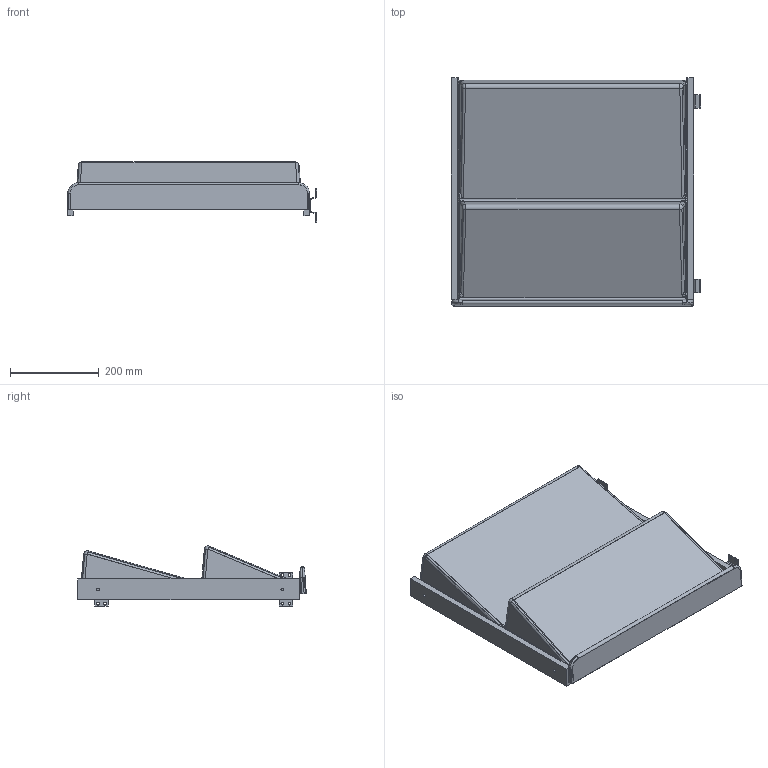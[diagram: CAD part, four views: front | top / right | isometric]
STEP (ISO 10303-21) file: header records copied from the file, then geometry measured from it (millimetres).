
FILE_DESCRIPTION(('STEP AP242'),'1');
FILE_NAME('OPO_50.810.02_volu_3d.stp','2025-11-08T20:22:21',(' '),(' '),'Spatial InterOp 3D',' ',' ');
FILE_SCHEMA(('AP242_MANAGED_MODEL_BASED_3D_ENGINEERING_MIM_LF {1 0 10303 442 1 1 4}'));
Length unit declared in the file: millimetre
Products named in the file (1): 1
Bounding box: 562 x 515.5 x 135.48 mm (x, y, z)
Volume: 1474630.2 mm3; surface area: 1015692.2 mm2
Topology: 4 solids, 4 shells, 491 faces, 1298 edges, 798 vertices
Faces by surface type: cylinder 212, plane 145, bspline 134
Entity records: 39079 total; most frequent: CARTESIAN_POINT 23420, ORIENTED_EDGE 2548, DIRECTION 2320, EDGE_CURVE 1274, AXIS2_PLACEMENT_3D 889, VERTEX_POINT 798, LINE 542, VECTOR 542
